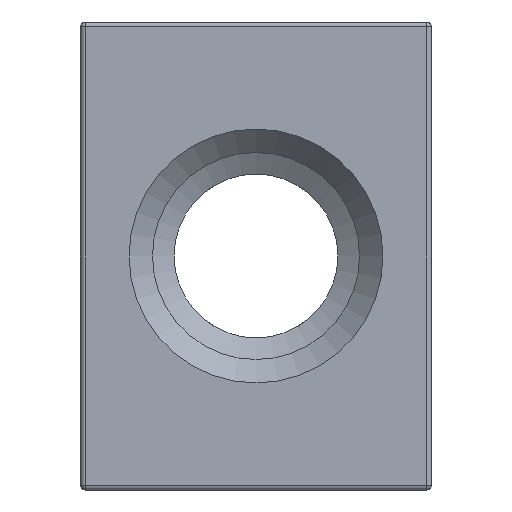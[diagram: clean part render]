
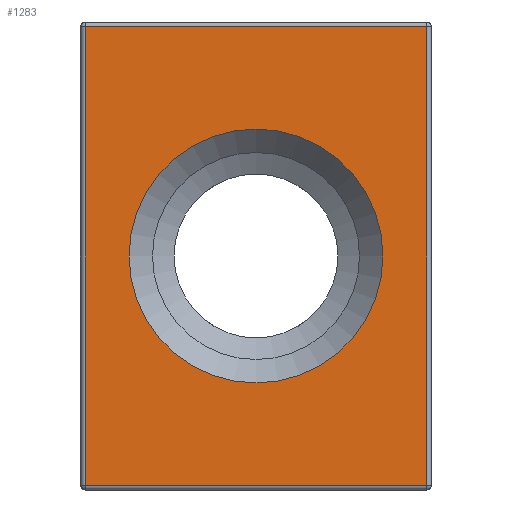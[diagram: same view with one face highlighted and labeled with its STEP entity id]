
A CAD part, left-side view. The second image highlights one B-rep face of the part: STEP entity #1283.
In plain terms, the highlighted planar face has unit normal (-1, 0, 0).
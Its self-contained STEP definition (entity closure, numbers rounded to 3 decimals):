
#91=FACE_BOUND('',#225,.T.);
#109=PLANE('',#1424);
#138=FACE_OUTER_BOUND('',#224,.T.);
#224=EDGE_LOOP('',(#973,#974,#975,#976));
#225=EDGE_LOOP('',(#977));
#323=LINE('',#2121,#396);
#324=LINE('',#2123,#397);
#325=LINE('',#2125,#398);
#326=LINE('',#2126,#399);
#396=VECTOR('',#1710,10.);
#397=VECTOR('',#1711,10.);
#398=VECTOR('',#1712,10.);
#399=VECTOR('',#1713,10.);
#478=CIRCLE('',#1422,5.424);
#590=VERTEX_POINT('',#2113);
#592=VERTEX_POINT('',#2119);
#593=VERTEX_POINT('',#2120);
#594=VERTEX_POINT('',#2122);
#595=VERTEX_POINT('',#2124);
#732=EDGE_CURVE('',#590,#590,#478,.T.);
#735=EDGE_CURVE('',#592,#593,#323,.T.);
#736=EDGE_CURVE('',#594,#592,#324,.T.);
#737=EDGE_CURVE('',#595,#594,#325,.T.);
#738=EDGE_CURVE('',#593,#595,#326,.T.);
#973=ORIENTED_EDGE('',*,*,#735,.F.);
#974=ORIENTED_EDGE('',*,*,#736,.F.);
#975=ORIENTED_EDGE('',*,*,#737,.F.);
#976=ORIENTED_EDGE('',*,*,#738,.F.);
#977=ORIENTED_EDGE('',*,*,#732,.F.);
#1283=ADVANCED_FACE('',(#138,#91),#109,.T.);
#1422=AXIS2_PLACEMENT_3D('',#2114,#1703,#1704);
#1424=AXIS2_PLACEMENT_3D('',#2118,#1708,#1709);
#1703=DIRECTION('center_axis',(-1.,0.,0.));
#1704=DIRECTION('ref_axis',(0.,1.,0.));
#1708=DIRECTION('center_axis',(-1.,0.,0.));
#1709=DIRECTION('ref_axis',(0.,0.,1.));
#1710=DIRECTION('',(0.,-1.,0.));
#1711=DIRECTION('',(0.,0.,1.));
#1712=DIRECTION('',(0.,1.,0.));
#1713=DIRECTION('',(0.,0.,-1.));
#2113=CARTESIAN_POINT('',(-45.,-5.424,0.));
#2114=CARTESIAN_POINT('Origin',(-45.,0.,0.));
#2118=CARTESIAN_POINT('Origin',(-45.,0.,-10.));
#2119=CARTESIAN_POINT('',(-45.,7.3,9.8));
#2120=CARTESIAN_POINT('',(-45.,-7.3,9.8));
#2121=CARTESIAN_POINT('',(-45.,0.,9.8));
#2122=CARTESIAN_POINT('',(-45.,7.3,-9.8));
#2123=CARTESIAN_POINT('',(-45.,7.3,-5.));
#2124=CARTESIAN_POINT('',(-45.,-7.3,-9.8));
#2125=CARTESIAN_POINT('',(-45.,0.,-9.8));
#2126=CARTESIAN_POINT('',(-45.,-7.3,-5.));
